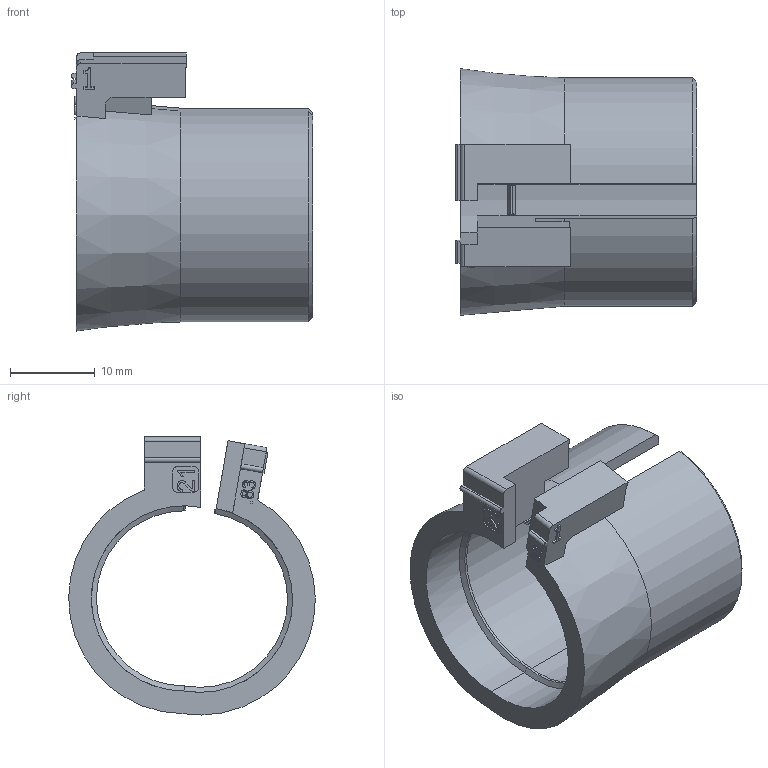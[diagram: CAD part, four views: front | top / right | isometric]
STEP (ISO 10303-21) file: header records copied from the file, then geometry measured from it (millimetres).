
FILE_DESCRIPTION(/* description */ (''),/* implementation_level */ '2;1');
FILE_NAME(/* name */ 'C:\SapWorkDir\Inventor\MP1\ConvertTempPath\87_12_121365_00_A_220530_KDT-X 21.stp',/* time_stamp */ '2022-05-31T14:06:07+02:00',/* author */ ('BAUER'),/* organization */ (''),/* preprocessor_version */ 'ST-DEVELOPER v16.13',/* originating_system */ 'Autodesk Inventor 2018',/* authorisation */ '');
FILE_SCHEMA (('AUTOMOTIVE_DESIGN { 1 0 10303 214 3 1 1 }'));
Length unit declared in the file: millimetre
Products named in the file (1): 121365
Bounding box: 28.4 x 29.03 x 32.73 mm (x, y, z)
Volume: 4409 mm3; surface area: 5122.1 mm2
Topology: 1 solids, 1 shells, 157 faces, 420 edges, 274 vertices
Faces by surface type: plane 84, bspline 41, cylinder 24, cone 8
Entity records: 5221 total; most frequent: CARTESIAN_POINT 1393, ORIENTED_EDGE 840, DIRECTION 622, EDGE_CURVE 420, VERTEX_POINT 274, LINE 272, VECTOR 272, AXIS2_PLACEMENT_3D 175
